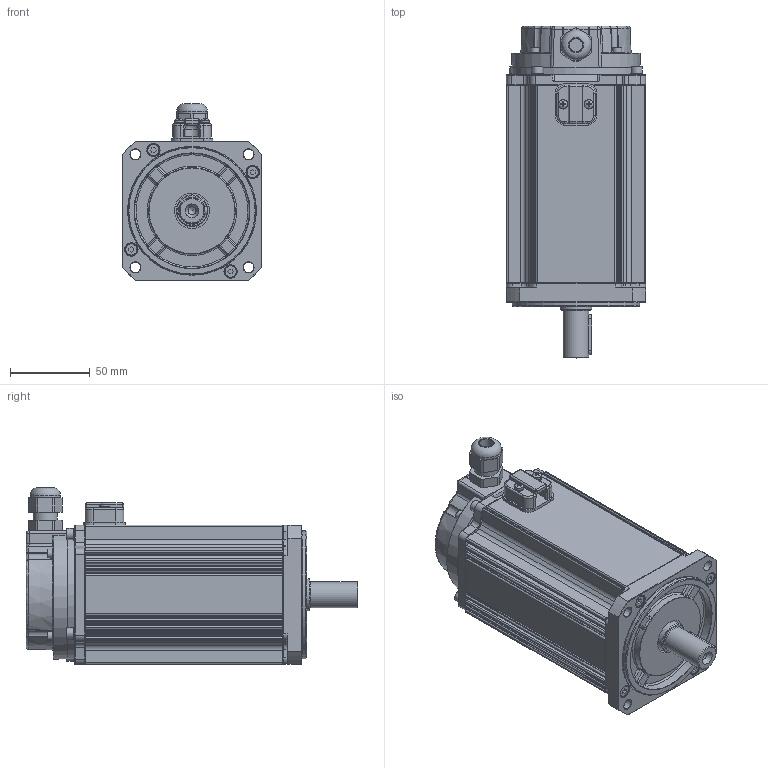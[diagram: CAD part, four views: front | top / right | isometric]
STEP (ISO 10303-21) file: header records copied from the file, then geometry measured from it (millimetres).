
FILE_DESCRIPTION(('STEP AP203'),'1');
FILE_NAME('B401E-D4R.stp','2021-04-14T07:16:38',(' '),(' '),'Spatial InterOp 3D',' ',' ');
FILE_SCHEMA(('CONFIG_CONTROL_DESIGN'));
Length unit declared in the file: millimetre
Products named in the file (1): B401E-D4R
Bounding box: 87 x 207.5 x 110.5 mm (x, y, z)
Volume: 1092567.8 mm3; surface area: 100366.8 mm2
Topology: 1 solids, 13 shells, 1738 faces, 4128 edges, 2428 vertices
Faces by surface type: plane 791, cone 379, cylinder 371, torus 112, bspline 55, sphere 23, revolution 7
Full cylindrical faces by diameter (mm): 2.5 x4, 3 x6, 3.3 x9, 3.5 x4, 4 x8, 4.5 x8, 5 x1, 5.5 x4, 5.6 x2, 6.5 x4, 7 x8, 8 x5, 8.5 x1, 9 x1, 15.2 x1, 16 x1, 19 x1, 19.8 x1, 22 x1, 72 x1, 80 x2
Entity records: 55573 total; most frequent: CARTESIAN_POINT 16534, DIRECTION 8449, ORIENTED_EDGE 7768, EDGE_CURVE 3884, AXIS2_PLACEMENT_3D 3184, VERTEX_POINT 2350, LINE 2074, VECTOR 2074
